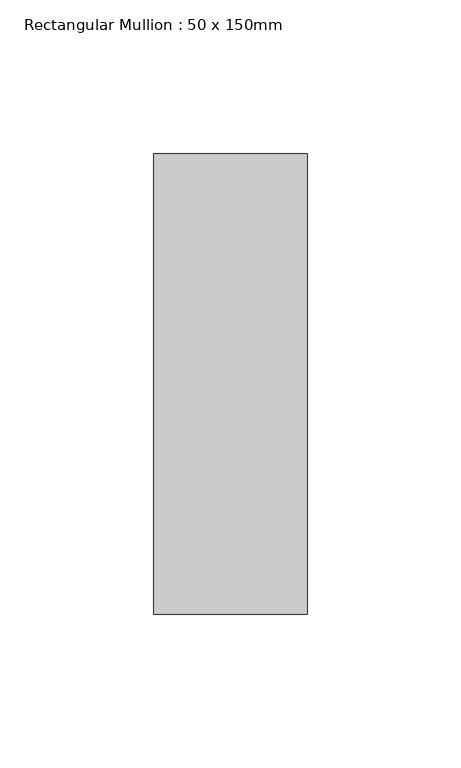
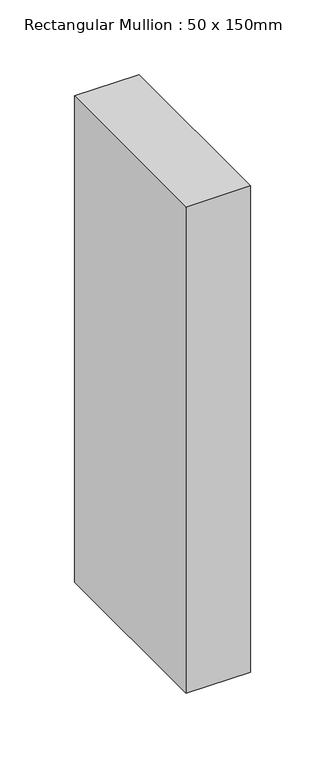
"""IFC4 building model written with IfcOpenShell, lengths in millimetres: member geometry, Rectangular Mullion : 50 x 150mm."""

from ifc_helpers import new_model, si_unit, frame, origin, place, context, project, spatial, polyline, outline, extrude, source, transform, mapped, element, save


def rectangular_mullion_50_x_150mm_bc1728b1(model_context):
    return source(origin(), model_context, "Body", "SweptSolid", [
        extrude(outline(polyline([(0.0, 75.0), (0.0, -75.0), (-50.0, -75.0), (-50.0, 75.0), (0.0, 75.0)])), frame((0.0, 0.0, -398.2909042), z_axis=(0.0, 0.0, 1.0), x_axis=(1.0, 0.0, 0.0)), (0.0, 0.0, 1.0), 398.2909042),
    ])


if __name__ == "__main__":
    model = new_model("IFC4")
    model_context = context("Model", 3, world=origin())
    ifc_project = project(units=[si_unit("LENGTHUNIT", "METRE", prefix="MILLI")], contexts=[model_context])
    site = spatial("IfcSite", under=ifc_project)
    building = spatial("IfcBuilding", under=site)
    placement = place(None, origin())
    rectangular_mullion_50_x_150mm_shape = rectangular_mullion_50_x_150mm_bc1728b1(model_context)
    element("IfcMember", 1, ObjectType="Rectangular Mullion : 50 x 150mm", at=placement, inside=building, context=model_context, shape_type="MappedRepresentation", body=[
        mapped(rectangular_mullion_50_x_150mm_shape, transform((0.0, 0.0, 0.0), x_axis=(1.0, 0.0, 0.0), y_axis=(0.0, 1.0, 0.0), z_axis=(0.0, 0.0, 1.0))),
    ])
    save(model, "model.ifc")
